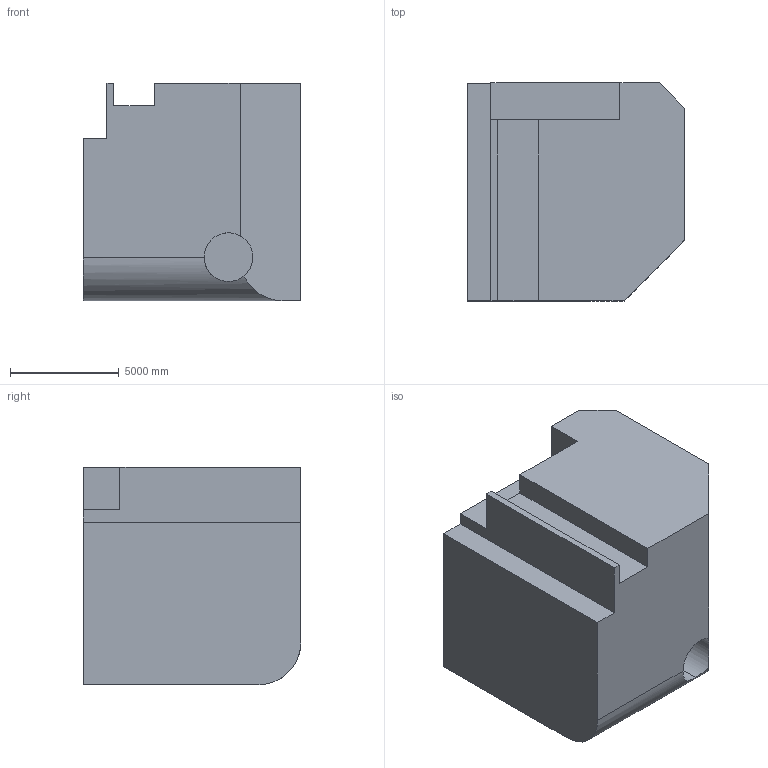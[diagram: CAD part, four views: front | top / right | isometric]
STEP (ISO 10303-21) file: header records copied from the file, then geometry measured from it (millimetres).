
FILE_DESCRIPTION (( 'STEP AP203' ), '1' );
FILE_NAME ('322.STEP', '2022-09-07T15:15:49', ( 'user' ), ( '' ), 'SwSTEP 2.0', 'SolidWorks 2021', '' );
FILE_SCHEMA (( 'CONFIG_CONTROL_DESIGN' ));
Length unit declared in the file: centimetre
Products named in the file (1): 322
Bounding box: 10000 x 10000 x 10000 mm (x, y, z)
Volume: 861565830649.9 mm3; surface area: 607815883.7 mm2
Topology: 1 solids, 1 shells, 21 faces, 57 edges, 38 vertices
Faces by surface type: plane 18, cylinder 3
Entity records: 825 total; most frequent: CARTESIAN_POINT 219, ORIENTED_EDGE 114, DIRECTION 102, EDGE_CURVE 57, VECTOR 48, LINE 48, VERTEX_POINT 38, AXIS2_PLACEMENT_3D 27
